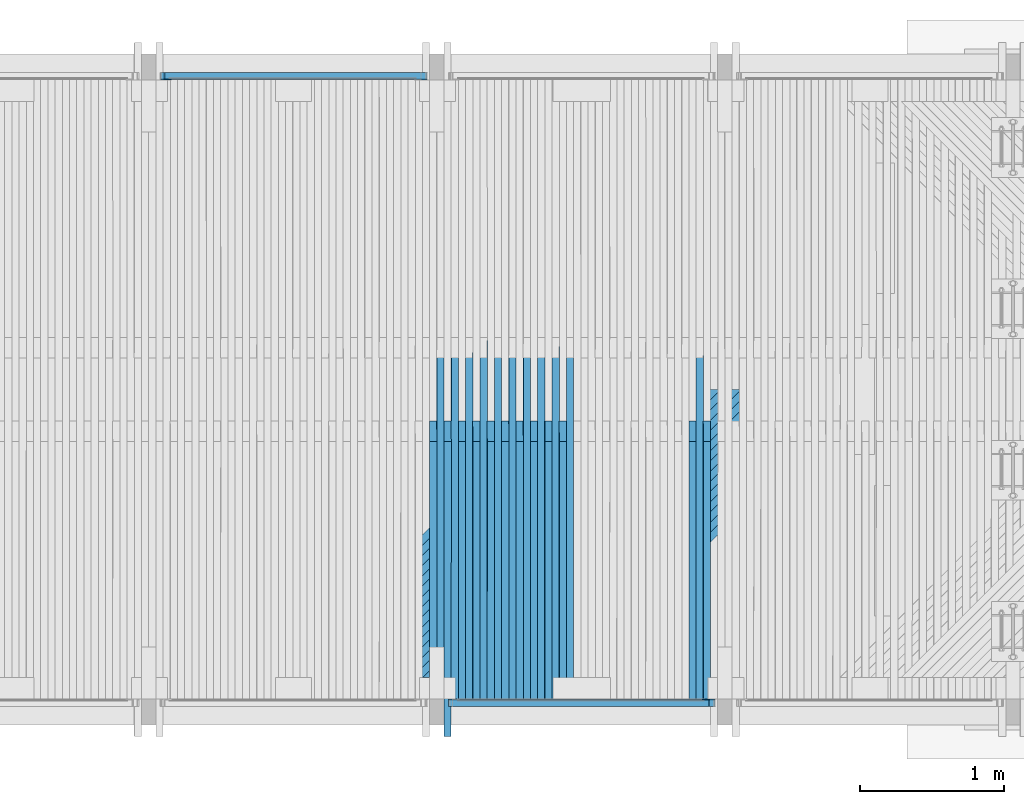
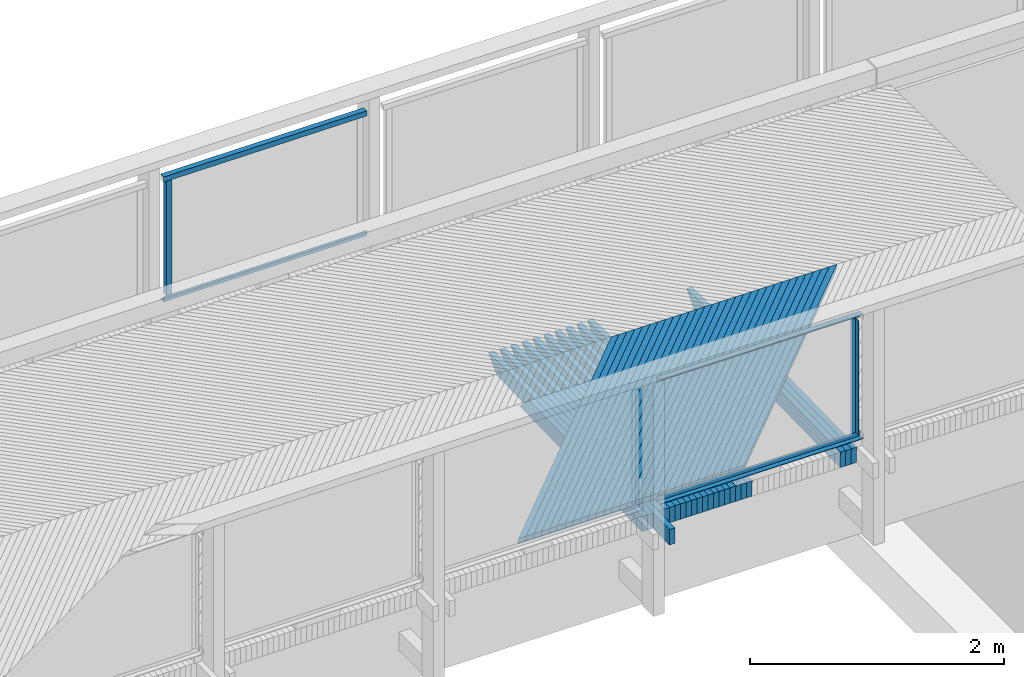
# One storey, part 40 of 65: 58 beams.
"""IFC2X3 building model written with IfcOpenShell, lengths in millimetres."""

from ifc_helpers import new_model, si_unit, frame, origin_with_axes, place, context, subcontext, project, spatial, faceted_brep, material, type_object, element, save


model = new_model("IFC2X3")

# Units and contexts
model_context = context("Model", 3, precision=1e-05, world=origin_with_axes())
body_context = subcontext(model_context, "Body", "Model", "MODEL_VIEW")
ifc_project = project(units=[si_unit("LENGTHUNIT", "METRE", prefix="MILLI"), si_unit("AREAUNIT", "SQUARE_METRE"), si_unit("VOLUMEUNIT", "CUBIC_METRE"), si_unit("MASSUNIT", "GRAM", prefix="KILO"), si_unit("TIMEUNIT", "SECOND"), si_unit("PLANEANGLEUNIT", "RADIAN"), si_unit("SOLIDANGLEUNIT", "STERADIAN"), si_unit("THERMODYNAMICTEMPERATUREUNIT", "DEGREE_CELSIUS"), si_unit("LUMINOUSINTENSITYUNIT", "LUMEN")], contexts=[model_context])

# Site, building, storey
site_placement = place(None, origin_with_axes())
site = spatial("IfcSite", under=ifc_project, at=site_placement, Name="Undefined", CompositionType="ELEMENT")
building_placement = place(site_placement, origin_with_axes())
building = spatial("IfcBuilding", under=site, at=building_placement, Name="Undefined", CompositionType="ELEMENT")
storey_placement = place(building_placement, origin_with_axes())
storey = spatial("IfcBuildingStorey", under=building, at=storey_placement, Name="Undefined", CompositionType="ELEMENT", Elevation=0.0)

# Beams
ifc_material_1 = material(Name="STEEL/S235JR")
beam_type_1 = type_object("IfcBeamType", Name="L50*5", PredefinedType="NOTDEFINED")
beam_1_placement = place(storey_placement, frame((10132.4988327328, 24539.9900000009, 4412.55853646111), z_axis=(0.0, 1.0, 0.0), x_axis=(0.0, 0.0, -1.0)))
element("IfcBeam", 1, at=beam_1_placement, inside=storey, type_object=beam_type_1, material=ifc_material_1, Name="BEAM", ObjectType="L50*5", context=body_context, shape_type="Brep", body=[
    faceted_brep([(0.0, 25.0, -25.0), (0.0, 25.0, 25.0), (1099.9997751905, 25.0, 25.0), (1099.9997751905, 25.0, -25.0), (0.0, 20.0, 25.0), (1099.9997751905, 20.0, 25.0), (0.0, 20.0, -20.0), (1099.9997751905, 20.0, -20.0), (0.0, -25.0, -20.0), (1099.9997751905, -25.0, -20.0), (0.0, -25.0, -25.0), (1099.9997751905, -25.0, -25.0)], [[[0, 1, 2, 3]], [[1, 4, 5, 2]], [[4, 6, 7, 5]], [[6, 8, 9, 7]], [[8, 10, 11, 9]], [[10, 0, 3, 11]], [[5, 7, 9, 11, 3, 2]], [[10, 8, 6, 4, 1, 0]]]),
])
for number, where, z_axis, x_axis, name in (
    (2, (10083.127585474, 24539.9900000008, 3287.67972949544), (0.0, 1.0, 0.0), (0.999987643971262, 0.0, -0.00497110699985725), "BEAM"),
    (3, (11931.8735567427, 24539.9899999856, 4428.48944779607), (0.0, 1.0, 0.0), (-0.999987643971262, 0.0, 0.00497110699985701), "BEAM"),
):
    element("IfcBeam", number, at=place(storey_placement, frame(where, z_axis=z_axis, x_axis=x_axis)), inside=storey, type_object=beam_type_1, material=ifc_material_1, Name=name, ObjectType="L50*5", context=body_context, shape_type="Brep", body=[
        faceted_brep([(0.0, 25.0, -25.0), (0.0, 25.0, 25.0), (1849.01737315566, 25.0, 25.0), (1849.01737315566, 25.0, -25.0), (0.0, 20.0, 25.0), (1849.01737315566, 20.0, 25.0), (0.0, 20.0, -20.0), (1849.01737315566, 20.0, -20.0), (0.0, -25.0, -20.0), (1849.01737315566, -25.0, -20.0), (0.0, -25.0, -25.0), (1849.01737315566, -25.0, -25.0)], [[[0, 1, 2, 3]], [[1, 4, 5, 2]], [[4, 6, 7, 5]], [[6, 8, 9, 7]], [[8, 10, 11, 9]], [[10, 0, 3, 11]], [[5, 7, 9, 11, 3, 2]], [[10, 8, 6, 4, 1, 0]]]),
    ])
beam_2_placement = place(storey_placement, frame((13867.5024948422, 20190.01, 4387.46397344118), z_axis=(0.0, -1.0, 0.0), x_axis=(0.0, 0.0, -1.0)))
element("IfcBeam", 4, at=beam_2_placement, inside=storey, type_object=beam_type_1, material=ifc_material_1, Name="BEAM", ObjectType="L50*5", context=body_context, shape_type="Brep", body=[
    faceted_brep([(0.0, 25.0, -25.0), (0.0, 25.0, 25.0), (1099.9980148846, 25.0, 25.0), (1099.9980148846, 25.0, -25.0), (0.0, 20.0, 25.0), (1099.9980148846, 20.0, 25.0), (0.0, 20.0, -20.0), (1099.9980148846, 20.0, -20.0), (0.0, -25.0, -20.0), (1099.9980148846, -25.0, -20.0), (0.0, -25.0, -25.0), (1099.9980148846, -25.0, -25.0)], [[[0, 1, 2, 3]], [[1, 4, 5, 2]], [[4, 6, 7, 5]], [[6, 8, 9, 7]], [[8, 10, 11, 9]], [[10, 0, 3, 11]], [[5, 7, 9, 11, 3, 2]], [[10, 8, 6, 4, 1, 0]]]),
])
for number, where, z_axis, x_axis, name in (
    (5, (13932.2054220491, 20190.0100000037, 3262.13638717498), (0.0, -1.0, 0.0), (-0.999965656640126, 0.0, 0.00828767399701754), "BEAM"),
    (6, (12082.7953903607, 20190.0100000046, 4427.46326622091), (0.0, -1.0, 0.0), (0.999965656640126, 0.0, -0.00828767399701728), "BEAM"),
):
    element("IfcBeam", number, at=place(storey_placement, frame(where, z_axis=z_axis, x_axis=x_axis)), inside=storey, type_object=beam_type_1, material=ifc_material_1, Name=name, ObjectType="L50*5", context=body_context, shape_type="Brep", body=[
        faceted_brep([(0.0, 25.0, -25.0), (0.0, 25.0, 25.0), (1849.05915089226, 25.0, 25.0), (1849.05915089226, 25.0, -25.0), (0.0, 20.0, 25.0), (1849.05915089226, 19.9999999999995, 25.0), (0.0, 20.0, -20.0), (1849.05915089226, 19.9999999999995, -20.0), (0.0, -25.0, -20.0), (1849.05915089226, -25.0, -20.0), (0.0, -25.0, -25.0), (1849.05915089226, -25.0, -25.0)], [[[0, 1, 2, 3]], [[1, 4, 5, 2]], [[4, 6, 7, 5]], [[6, 8, 9, 7]], [[8, 10, 11, 9]], [[10, 0, 3, 11]], [[5, 7, 9, 11, 3, 2]], [[10, 8, 6, 4, 1, 0]]]),
    ])
ifc_material_2 = material(Name="TIMBER/Timber_Undefined")
beam_type_2 = type_object("IfcBeamType", Name="50*50", PredefinedType="NOTDEFINED")
for number, where, z_axis, x_axis, name in (
    (7, (14925.1802800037, 22364.5001003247, 3196.29569063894), (0.706919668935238, -0.706981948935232, -0.0210025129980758), (-0.707227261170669, -0.706948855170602, -0.00727442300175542), "BEAM"),
    (8, (14854.4606769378, 22364.5001003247, 3197.1049734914), (0.706922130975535, -0.706981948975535, -0.0209194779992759), (-0.707226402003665, -0.706948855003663, -0.00735749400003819), "BEAM"),
    (9, (14783.740979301, 22364.5001003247, 3197.90594956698), (0.706924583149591, -0.706981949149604, -0.020836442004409), (-0.70722553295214, -0.706948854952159, -0.00744056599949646), "BEAM"),
    (10, (14713.0211880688, 22364.5001003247, 3198.69861885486), (0.706927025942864, -0.706981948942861, -0.0207534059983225), (-0.707224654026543, -0.706948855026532, -0.00752363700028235), "BEAM"),
    (11, (14642.301304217, 22364.5001003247, 3199.4829813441), (0.706929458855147, -0.706981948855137, -0.0206703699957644), (-0.70722376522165, -0.706948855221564, -0.00760670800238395), "BEAM"),
    (12, (14571.5813287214, 22364.5001003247, 3200.25903702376), (0.706931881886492, -0.706981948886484, -0.0205873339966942), (-0.707222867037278, -0.706948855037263, -0.00768977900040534), "BEAM"),
    (13, (14500.8612625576, 22364.5001003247, 3201.02678588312), (0.706934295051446, -0.706981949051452, -0.0205042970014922), (-0.707221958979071, -0.70694885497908, -0.00777284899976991), "BEAM"),
    (14, (14430.1411067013, 22364.5001003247, 3201.78622791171), (0.706936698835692, -0.706981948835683, -0.0204212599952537), (-0.707221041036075, -0.706948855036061, -0.00785592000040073), "BEAM"),
    (15, (14359.4208621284, 22364.5001003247, 3202.53736309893), (0.706939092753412, -0.706981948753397, -0.0203382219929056), (-0.707220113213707, -0.706948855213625, -0.00793899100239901), "BEAM"),
    (16, (14288.7005298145, 22364.5001003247, 3203.28019143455), (0.706941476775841, -0.706981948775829, -0.0202551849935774), (-0.707219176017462, -0.706948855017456, -0.00802206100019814), "BEAM"),
    (17, (14217.9801107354, 22364.5001003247, 3204.01471290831), (0.706943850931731, -0.706981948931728, -0.0201721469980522), (-0.707218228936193, -0.706948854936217, -0.00810513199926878), "BEAM"),
    (18, (14147.2596058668, 22364.5001003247, 3204.74092750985), (0.706946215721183, -0.706981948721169, -0.020089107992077), (-0.707217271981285, -0.706948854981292, -0.00818820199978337), "BEAM"),
    (19, (14076.5390161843, 22364.5001003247, 3205.45883522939), (0.706948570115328, -0.706981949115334, -0.0200060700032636), (-0.707216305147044, -0.706948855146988, -0.00827127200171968), "BEAM"),
    (20, (14005.8183426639, 22364.5001003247, 3206.16843605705), (0.706950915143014, -0.706981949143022, -0.0199230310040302), (-0.707215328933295, -0.70694885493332, -0.00835434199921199), "BEAM"),
    (21, (13935.0975862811, 22364.5001003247, 3206.86972998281), (0.706953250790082, -0.706981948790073, -0.019839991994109), (-0.707214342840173, -0.706948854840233, -0.00843741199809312), "BEAM"),
    (22, (13864.3767480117, 22364.5001003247, 3207.56271699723), (0.706955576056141, -0.706981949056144, -0.019756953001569), (-0.707213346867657, -0.706948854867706, -0.00852048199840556), "BEAM"),
    (23, (13793.6558288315, 22364.5001003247, 3208.24739709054), (0.706957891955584, -0.706981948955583, -0.019673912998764), (-0.70721234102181, -0.706948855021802, -0.00860355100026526), "BEAM"),
    (24, (13722.9348297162, 22364.5001003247, 3208.92377025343), (0.706960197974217, -0.706981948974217, -0.0195908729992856), (-0.7072113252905, -0.706948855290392, -0.00868662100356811), "BEAM"),
    (25, (13652.2137516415, 22364.5001003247, 3209.5918364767), (0.70696249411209, -0.706981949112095, -0.0195078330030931), (-0.707210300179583, -0.706948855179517, -0.0087696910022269), "BEAM"),
    (26, (13581.4925955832, 22364.5001003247, 3210.25159575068), (0.706964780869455, -0.706981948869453, -0.0194247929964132), (-0.707209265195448, -0.706948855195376, -0.00885276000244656), "BEAM"),
    (27, (13510.771362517, 22364.5001003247, 3210.90304806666), (0.706967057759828, -0.706981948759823, -0.019341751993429), (-0.707208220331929, -0.706948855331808, -0.00893582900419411), "BEAM"),
    (28, (13440.0500534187, 22364.5001003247, 3211.54619341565), (0.706969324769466, -0.706981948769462, -0.0192587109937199), (-0.707207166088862, -0.706948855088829, -0.00901889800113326), "BEAM"),
    (29, (13369.3286692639, 22364.5001003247, 3212.18103178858), (0.706971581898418, -0.706981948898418, -0.0191756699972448), (-0.707206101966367, -0.70694885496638, -0.00910196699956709), "BEAM"),
    (30, (13298.6072110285, 22364.5001003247, 3212.80756317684), (0.706973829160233, -0.706981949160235, -0.0190926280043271), (-0.707205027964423, -0.706948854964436, -0.00918503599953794), "BEAM"),
    (31, (13227.8856796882, 22364.5001003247, 3213.42578757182), (0.706976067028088, -0.70698194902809, -0.0190095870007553), (-0.707203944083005, -0.706948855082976, -0.00926810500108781), "BEAM"),
    (32, (13157.1640762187, 22364.5001003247, 3214.03570496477), (0.70697829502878, -0.70698194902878, -0.0189265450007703), (-0.707202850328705, -0.706948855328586, -0.00935117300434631), "BEAM"),
    (33, (13086.4424015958, 22364.5001003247, 3214.63731534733), (0.706980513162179, -0.70698194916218, -0.0188435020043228), (-0.707201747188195, -0.706948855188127, -0.00943424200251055), "BEAM"),
    (34, (13015.7206567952, 22364.5001003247, 3215.23061871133), (0.706982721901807, -0.706981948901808, -0.0187604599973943), (-0.707200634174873, -0.706948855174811, -0.00951731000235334), "BEAM"),
    (35, (12944.9988427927, 22364.5001003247, 3215.81561504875), (0.706984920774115, -0.706981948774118, -0.0186774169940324), (-0.707199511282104, -0.706948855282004, -0.00960037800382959), "BEAM"),
):
    element("IfcBeam", number, at=place(storey_placement, frame(where, z_axis=z_axis, x_axis=x_axis)), inside=storey, type_object=beam_type_2, material=ifc_material_2, Name=name, ObjectType="50*50", context=body_context, shape_type="Brep", body=[
        faceted_brep([(24.8942457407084, 25.0000000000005, -25.0000000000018), (-25.0086637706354, 24.9999999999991, 25.0), (2804.3406783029, 25.0, 25.0000000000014), (2854.34301907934, 24.9999999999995, -25.0), (-26.4222658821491, -25.0000000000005, 25.0), (2802.92643296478, -25.0, 25.0000000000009), (23.4806436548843, -24.9999999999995, -25.0000000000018), (2852.92877373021, -25.0000000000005, -24.9999999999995)], [[[0, 1, 2, 3]], [[1, 4, 5, 2]], [[4, 6, 7, 5]], [[6, 0, 3, 7]], [[5, 7, 3, 2]], [[6, 4, 1, 0]]]),
    ])
beam_type_3 = type_object("IfcBeamType", Name="150*50", PredefinedType="NOTDEFINED")
for number, where, z_axis, x_axis, name in (
    (36, (13875.0597412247, 20216.5046076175, 3064.47376901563), (0.00967943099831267, -0.0199960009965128, 0.999753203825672), (0.000193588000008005, 0.999800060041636, 0.0199950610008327), "BEAM"),
    (37, (13775.0443914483, 20216.5046076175, 3065.44163255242), (0.00951331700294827, -0.0199960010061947, 0.999754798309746), (0.000190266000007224, 0.999800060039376, 0.0199950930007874), "BEAM"),
):
    element("IfcBeam", number, at=place(storey_placement, frame(where, z_axis=z_axis, x_axis=x_axis)), inside=storey, type_object=beam_type_3, material=ifc_material_2, Name=name, ObjectType="150*50", context=body_context, shape_type="Brep", body=[
        faceted_brep([(-1.6778358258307e-07, -24.9999999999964, -74.9999999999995), (1.67790858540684e-07, -24.9999999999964, 75.0000000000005), (1.67790858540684e-07, 25.0000000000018, 74.9999999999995), (-1.6778358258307e-07, 25.0000000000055, -75.0), (1789.96936433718, -25.0000000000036, 74.9999999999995), (1789.96936408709, 24.9999999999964, 75.0), (1928.42646328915, 24.9999999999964, -75.0), (1928.42646353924, -25.0, -75.0000000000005)], [[[0, 1, 2, 3]], [[2, 1, 4, 5]], [[3, 2, 5, 6]], [[0, 3, 6, 7]], [[1, 0, 7, 4]], [[6, 5, 4, 7]]]),
    ])
beam_3_placement = place(storey_placement, frame((13825.062080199, 20216.5046076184, 3064.95737203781), z_axis=(0.00967943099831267, -0.0199960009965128, 0.999753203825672), x_axis=(0.000193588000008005, 0.999800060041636, 0.0199950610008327)))
element("IfcBeam", 38, at=beam_3_placement, inside=storey, type_object=beam_type_3, material=ifc_material_2, Name="BEAM", ObjectType="150*50", context=body_context, shape_type="Brep", body=[
    faceted_brep([(-1.6778358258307e-07, -24.9999999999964, -74.9999999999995), (1.67790858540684e-07, -24.9999999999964, 75.0000000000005), (1.67790858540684e-07, 25.0000000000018, 74.9999999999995), (-1.6778358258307e-07, 25.0000000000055, -75.0), (2375.00494422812, 25.0000000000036, -75.0), (2375.00494447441, -24.9999999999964, -74.9999999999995), (2510.59248714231, -24.9999999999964, 60.5875430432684), (2150.42514405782, -24.9999999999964, 75.0000000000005), (2150.42515052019, 25.0000000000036, 74.9999999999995), (2510.59248715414, 25.0000000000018, 60.5875433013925)], [[[0, 1, 2, 3]], [[0, 3, 4, 5]], [[1, 0, 5, 6, 7]], [[2, 1, 7, 8]], [[4, 3, 2, 8, 9]], [[5, 4, 9, 6]], [[6, 9, 8, 7]]]),
])
beam_4_placement = place(storey_placement, frame((12874.8994002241, 20216.5046076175, 3073.40458690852), z_axis=(0.00801827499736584, -0.0199960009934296, 0.999767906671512), x_axis=(0.0001603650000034, 0.999800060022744, 0.0199953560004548)))
element("IfcBeam", 39, at=beam_4_placement, inside=storey, type_object=beam_type_3, material=ifc_material_2, Name="BEAM", ObjectType="150*50", context=body_context, shape_type="Brep", body=[
    faceted_brep([(-1.6778358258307e-07, -24.9999999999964, -74.9999999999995), (1.67790858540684e-07, -24.9999999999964, 75.0000000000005), (1.67790858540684e-07, 25.0000000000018, 74.9999999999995), (-1.6778358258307e-07, 25.0000000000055, -75.0), (1789.96936433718, -25.0000000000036, 74.9999999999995), (1789.96936408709, 24.9999999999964, 75.0), (1928.42646328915, 24.9999999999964, -75.0), (1928.42646353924, -25.0, -75.0000000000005)], [[[0, 1, 2, 3]], [[2, 1, 4, 5]], [[3, 2, 5, 6]], [[0, 3, 6, 7]], [[1, 0, 7, 4]], [[6, 5, 4, 7]]]),
])
beam_5_placement = place(storey_placement, frame((12924.9177572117, 20216.5046076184, 3072.99512326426), z_axis=(0.00818439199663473, -0.0199960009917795, 0.999766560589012), x_axis=(0.000163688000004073, 0.999800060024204, 0.019995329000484)))
element("IfcBeam", 40, at=beam_5_placement, inside=storey, type_object=beam_type_3, material=ifc_material_2, Name="BEAM", ObjectType="150*50", context=body_context, shape_type="Brep", body=[
    faceted_brep([(-1.6778358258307e-07, -24.9999999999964, -74.9999999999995), (1.67790858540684e-07, -24.9999999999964, 75.0000000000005), (1.67790858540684e-07, 25.0000000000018, 74.9999999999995), (-1.6778358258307e-07, 25.0000000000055, -75.0), (2375.00494422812, 25.0000000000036, -75.0), (2375.00494447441, -24.9999999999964, -74.9999999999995), (2510.59248714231, -24.9999999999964, 60.5875430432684), (2150.42514405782, -24.9999999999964, 75.0000000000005), (2150.42515052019, 25.0000000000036, 74.9999999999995), (2510.59248715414, 25.0000000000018, 60.5875433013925)], [[[0, 1, 2, 3]], [[0, 3, 4, 5]], [[1, 0, 5, 6, 7]], [[2, 1, 7, 8]], [[4, 3, 2, 8, 9]], [[5, 4, 9, 6]], [[6, 9, 8, 7]]]),
])
beam_6_placement = place(storey_placement, frame((12774.8825803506, 20216.5046076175, 3074.20626833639), z_axis=(0.00785215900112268, -0.0199960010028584, 0.99976922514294), x_axis=(0.00015704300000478, 0.999800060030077, 0.0199953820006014)))
element("IfcBeam", 41, at=beam_6_placement, inside=storey, type_object=beam_type_3, material=ifc_material_2, Name="BEAM", ObjectType="150*50", context=body_context, shape_type="Brep", body=[
    faceted_brep([(-1.6778358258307e-07, -24.9999999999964, -74.9999999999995), (1.67790858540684e-07, -24.9999999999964, 75.0000000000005), (1.67790858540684e-07, 25.0000000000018, 74.9999999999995), (-1.6778358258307e-07, 25.0000000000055, -75.0), (1789.96936433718, -25.0000000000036, 74.9999999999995), (1789.96936408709, 24.9999999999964, 75.0), (1928.42646328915, 24.9999999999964, -75.0), (1928.42646353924, -25.0, -75.0000000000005)], [[[0, 1, 2, 3]], [[2, 1, 4, 5]], [[3, 2, 5, 6]], [[0, 3, 6, 7]], [[1, 0, 7, 4]], [[6, 5, 4, 7]]]),
])
beam_7_placement = place(storey_placement, frame((12824.9010046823, 20216.5046076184, 3073.80511551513), z_axis=(0.00801827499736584, -0.0199960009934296, 0.999767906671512), x_axis=(0.0001603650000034, 0.999800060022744, 0.0199953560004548)))
element("IfcBeam", 42, at=beam_7_placement, inside=storey, type_object=beam_type_3, material=ifc_material_2, Name="BEAM", ObjectType="150*50", context=body_context, shape_type="Brep", body=[
    faceted_brep([(-1.6778358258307e-07, -24.9999999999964, -74.9999999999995), (1.67790858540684e-07, -24.9999999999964, 75.0000000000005), (1.67790858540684e-07, 25.0000000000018, 74.9999999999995), (-1.6778358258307e-07, 25.0000000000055, -75.0), (2375.00494422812, 25.0000000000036, -75.0), (2375.00494447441, -24.9999999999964, -74.9999999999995), (2510.59248714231, -24.9999999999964, 60.5875430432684), (2150.42514405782, -24.9999999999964, 75.0000000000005), (2150.42515052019, 25.0000000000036, 74.9999999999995), (2510.59248715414, 25.0000000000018, 60.5875433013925)], [[[0, 1, 2, 3]], [[0, 3, 4, 5]], [[1, 0, 5, 6, 7]], [[2, 1, 7, 8]], [[4, 3, 2, 8, 9]], [[5, 4, 9, 6]], [[6, 9, 8, 7]]]),
])
beam_8_placement = place(storey_placement, frame((12674.8656286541, 20216.5046076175, 3074.99133142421), z_axis=(0.00768604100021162, -0.0199960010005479, 0.999770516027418), x_axis=(0.000153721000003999, 0.999800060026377, 0.0199954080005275)))
element("IfcBeam", 43, at=beam_8_placement, inside=storey, type_object=beam_type_3, material=ifc_material_2, Name="BEAM", ObjectType="150*50", context=body_context, shape_type="Brep", body=[
    faceted_brep([(-1.6778358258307e-07, -24.9999999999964, -74.9999999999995), (1.67790858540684e-07, -24.9999999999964, 75.0000000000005), (1.67790858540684e-07, 25.0000000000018, 74.9999999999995), (-1.6778358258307e-07, 25.0000000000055, -75.0), (1789.96936433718, -25.0000000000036, 74.9999999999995), (1789.96936408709, 24.9999999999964, 75.0), (1928.42646328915, 24.9999999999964, -75.0), (1928.42646353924, -25.0, -75.0000000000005)], [[[0, 1, 2, 3]], [[2, 1, 4, 5]], [[3, 2, 5, 6]], [[0, 3, 6, 7]], [[1, 0, 7, 4]], [[6, 5, 4, 7]]]),
])
beam_9_placement = place(storey_placement, frame((12724.884118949, 20216.5046076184, 3074.5984894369), z_axis=(0.00785215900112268, -0.0199960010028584, 0.99976922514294), x_axis=(0.00015704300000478, 0.999800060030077, 0.0199953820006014)))
element("IfcBeam", 44, at=beam_9_placement, inside=storey, type_object=beam_type_3, material=ifc_material_2, Name="BEAM", ObjectType="150*50", context=body_context, shape_type="Brep", body=[
    faceted_brep([(-1.6778358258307e-07, -24.9999999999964, -74.9999999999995), (1.67790858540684e-07, -24.9999999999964, 75.0000000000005), (1.67790858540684e-07, 25.0000000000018, 74.9999999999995), (-1.6778358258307e-07, 25.0000000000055, -75.0), (2375.00494422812, 25.0000000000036, -75.0), (2375.00494447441, -24.9999999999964, -74.9999999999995), (2510.59248714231, -24.9999999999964, 60.5875430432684), (2150.42514405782, -24.9999999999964, 75.0000000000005), (2150.42515052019, 25.0000000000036, 74.9999999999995), (2510.59248715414, 25.0000000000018, 60.5875433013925)], [[[0, 1, 2, 3]], [[0, 3, 4, 5]], [[1, 0, 5, 6, 7]], [[2, 1, 7, 8]], [[4, 3, 2, 8, 9]], [[5, 4, 9, 6]], [[6, 9, 8, 7]]]),
])
beam_10_placement = place(storey_placement, frame((12574.8485478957, 20216.5046076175, 3075.75977614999), z_axis=(0.00751992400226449, -0.0199960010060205, 0.99977177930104), x_axis=(0.000150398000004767, 0.999800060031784, 0.0199954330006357)))
element("IfcBeam", 45, at=beam_10_placement, inside=storey, type_object=beam_type_3, material=ifc_material_2, Name="BEAM", ObjectType="150*50", context=body_context, shape_type="Brep", body=[
    faceted_brep([(-1.6778358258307e-07, -24.9999999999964, -74.9999999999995), (1.67790858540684e-07, -24.9999999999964, 75.0000000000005), (1.67790858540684e-07, 25.0000000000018, 74.9999999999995), (-1.6778358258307e-07, 25.0000000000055, -75.0), (1789.96936433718, -25.0000000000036, 74.9999999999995), (1789.96936408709, 24.9999999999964, 75.0), (1928.42646328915, 24.9999999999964, -75.0), (1928.42646353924, -25.0, -75.0000000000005)], [[[0, 1, 2, 3]], [[2, 1, 4, 5]], [[3, 2, 5, 6]], [[0, 3, 6, 7]], [[1, 0, 7, 4]], [[6, 5, 4, 7]]]),
])
beam_11_placement = place(storey_placement, frame((12624.8671027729, 20216.5046076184, 3075.37524500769), z_axis=(0.00768604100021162, -0.0199960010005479, 0.999770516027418), x_axis=(0.000153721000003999, 0.999800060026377, 0.0199954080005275)))
element("IfcBeam", 46, at=beam_11_placement, inside=storey, type_object=beam_type_3, material=ifc_material_2, Name="BEAM", ObjectType="150*50", context=body_context, shape_type="Brep", body=[
    faceted_brep([(-1.6778358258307e-07, -24.9999999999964, -74.9999999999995), (1.67790858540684e-07, -24.9999999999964, 75.0000000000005), (1.67790858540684e-07, 25.0000000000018, 74.9999999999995), (-1.6778358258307e-07, 25.0000000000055, -75.0), (2375.00494422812, 25.0000000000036, -75.0), (2375.00494447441, -24.9999999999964, -74.9999999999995), (2510.59248714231, -24.9999999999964, 60.5875430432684), (2150.42514405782, -24.9999999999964, 75.0000000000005), (2150.42515052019, 25.0000000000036, 74.9999999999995), (2510.59248715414, 25.0000000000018, 60.5875433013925)], [[[0, 1, 2, 3]], [[0, 3, 4, 5]], [[1, 0, 5, 6, 7]], [[2, 1, 7, 8]], [[4, 3, 2, 8, 9]], [[5, 4, 9, 6]], [[6, 9, 8, 7]]]),
])
beam_12_placement = place(storey_placement, frame((12474.8313408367, 20216.5046076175, 3076.51160249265), z_axis=(0.00735380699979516, -0.0199960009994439, 0.999773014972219), x_axis=(0.000147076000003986, 0.999800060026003, 0.01999545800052)))
element("IfcBeam", 47, at=beam_12_placement, inside=storey, type_object=beam_type_3, material=ifc_material_2, Name="BEAM", ObjectType="150*50", context=body_context, shape_type="Brep", body=[
    faceted_brep([(-1.6778358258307e-07, -24.9999999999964, -74.9999999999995), (1.67790858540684e-07, -24.9999999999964, 75.0000000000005), (1.67790858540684e-07, 25.0000000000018, 74.9999999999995), (-1.6778358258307e-07, 25.0000000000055, -75.0), (1789.96936433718, -25.0000000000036, 74.9999999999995), (1789.96936408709, 24.9999999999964, 75.0), (1928.42646328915, 24.9999999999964, -75.0), (1928.42646353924, -25.0, -75.0000000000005)], [[[0, 1, 2, 3]], [[2, 1, 4, 5]], [[3, 2, 5, 6]], [[0, 3, 6, 7]], [[1, 0, 7, 4]], [[6, 5, 4, 7]]]),
])
beam_13_placement = place(storey_placement, frame((12524.8499589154, 20216.5046076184, 3076.13538220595), z_axis=(0.00751992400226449, -0.0199960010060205, 0.99977177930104), x_axis=(0.000150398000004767, 0.999800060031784, 0.0199954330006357)))
element("IfcBeam", 48, at=beam_13_placement, inside=storey, type_object=beam_type_3, material=ifc_material_2, Name="BEAM", ObjectType="150*50", context=body_context, shape_type="Brep", body=[
    faceted_brep([(-1.6778358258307e-07, -24.9999999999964, -74.9999999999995), (1.67790858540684e-07, -24.9999999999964, 75.0000000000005), (1.67790858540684e-07, 25.0000000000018, 74.9999999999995), (-1.6778358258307e-07, 25.0000000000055, -75.0), (2375.00494422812, 25.0000000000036, -75.0), (2375.00494447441, -24.9999999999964, -74.9999999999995), (2510.59248714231, -24.9999999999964, 60.5875430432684), (2150.42514405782, -24.9999999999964, 75.0000000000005), (2150.42515052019, 25.0000000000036, 74.9999999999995), (2510.59248715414, 25.0000000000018, 60.5875433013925)], [[[0, 1, 2, 3]], [[0, 3, 4, 5]], [[1, 0, 5, 6, 7]], [[2, 1, 7, 8]], [[4, 3, 2, 8, 9]], [[5, 4, 9, 6]], [[6, 9, 8, 7]]]),
])
beam_14_placement = place(storey_placement, frame((12374.8140102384, 20216.5046076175, 3077.24681043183), z_axis=(0.00718768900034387, -0.0199960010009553, 0.999774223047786), x_axis=(0.000143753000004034, 0.999800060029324, 0.0199954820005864)))
element("IfcBeam", 49, at=beam_14_placement, inside=storey, type_object=beam_type_3, material=ifc_material_2, Name="BEAM", ObjectType="150*50", context=body_context, shape_type="Brep", body=[
    faceted_brep([(-1.6778358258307e-07, -24.9999999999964, -74.9999999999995), (1.67790858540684e-07, -24.9999999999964, 75.0000000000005), (1.67790858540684e-07, 25.0000000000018, 74.9999999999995), (-1.6778358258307e-07, 25.0000000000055, -75.0), (1789.96936433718, -25.0000000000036, 74.9999999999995), (1789.96936408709, 24.9999999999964, 75.0), (1928.42646328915, 24.9999999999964, -75.0), (1928.42646353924, -25.0, -75.0000000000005)], [[[0, 1, 2, 3]], [[2, 1, 4, 5]], [[3, 2, 5, 6]], [[0, 3, 6, 7]], [[1, 0, 7, 4]], [[6, 5, 4, 7]]]),
])
beam_15_placement = place(storey_placement, frame((12424.8326901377, 20216.5046076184, 3076.87890101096), z_axis=(0.00735380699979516, -0.0199960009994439, 0.999773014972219), x_axis=(0.000147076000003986, 0.999800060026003, 0.01999545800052)))
element("IfcBeam", 50, at=beam_15_placement, inside=storey, type_object=beam_type_3, material=ifc_material_2, Name="BEAM", ObjectType="150*50", context=body_context, shape_type="Brep", body=[
    faceted_brep([(-1.6778358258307e-07, -24.9999999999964, -74.9999999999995), (1.67790858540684e-07, -24.9999999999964, 75.0000000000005), (1.67790858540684e-07, 25.0000000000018, 74.9999999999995), (-1.6778358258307e-07, 25.0000000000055, -75.0), (2375.00494422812, 25.0000000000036, -75.0), (2375.00494447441, -24.9999999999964, -74.9999999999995), (2510.59248714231, -24.9999999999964, 60.5875430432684), (2150.42514405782, -24.9999999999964, 75.0000000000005), (2150.42515052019, 25.0000000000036, 74.9999999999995), (2510.59248715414, 25.0000000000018, 60.5875433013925)], [[[0, 1, 2, 3]], [[0, 3, 4, 5]], [[1, 0, 5, 6, 7]], [[2, 1, 7, 8]], [[4, 3, 2, 8, 9]], [[5, 4, 9, 6]], [[6, 9, 8, 7]]]),
])
beam_16_placement = place(storey_placement, frame((12274.796558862, 20216.5046076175, 3077.96539994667), z_axis=(0.00702157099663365, -0.0199960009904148, 0.999775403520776), x_axis=(0.000140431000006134, 0.999800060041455, 0.019995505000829)))
element("IfcBeam", 51, at=beam_16_placement, inside=storey, type_object=beam_type_3, material=ifc_material_2, Name="BEAM", ObjectType="150*50", context=body_context, shape_type="Brep", body=[
    faceted_brep([(-1.6778358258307e-07, -24.9999999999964, -74.9999999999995), (1.67790858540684e-07, -24.9999999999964, 75.0000000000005), (1.67790858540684e-07, 25.0000000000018, 74.9999999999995), (-1.6778358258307e-07, 25.0000000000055, -75.0), (1789.96936433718, -25.0000000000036, 74.9999999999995), (1789.96936408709, 24.9999999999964, 75.0), (1928.42646328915, 24.9999999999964, -75.0), (1928.42646353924, -25.0, -75.0000000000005)], [[[0, 1, 2, 3]], [[2, 1, 4, 5]], [[3, 2, 5, 6]], [[0, 3, 6, 7]], [[1, 0, 7, 4]], [[6, 5, 4, 7]]]),
])
beam_17_placement = place(storey_placement, frame((12324.8152992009, 20216.5046076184, 3077.60580140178), z_axis=(0.00718768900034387, -0.0199960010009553, 0.999774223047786), x_axis=(0.000143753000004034, 0.999800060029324, 0.0199954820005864)))
element("IfcBeam", 52, at=beam_17_placement, inside=storey, type_object=beam_type_3, material=ifc_material_2, Name="BEAM", ObjectType="150*50", context=body_context, shape_type="Brep", body=[
    faceted_brep([(-1.6778358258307e-07, -24.9999999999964, -74.9999999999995), (1.67790858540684e-07, -24.9999999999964, 75.0000000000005), (1.67790858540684e-07, 25.0000000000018, 74.9999999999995), (-1.6778358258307e-07, 25.0000000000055, -75.0), (2375.00494422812, 25.0000000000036, -75.0), (2375.00494447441, -24.9999999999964, -74.9999999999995), (2510.59248714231, -24.9999999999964, 60.5875430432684), (2150.42514405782, -24.9999999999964, 75.0000000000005), (2150.42515052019, 25.0000000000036, 74.9999999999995), (2510.59248715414, 25.0000000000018, 60.5875433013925)], [[[0, 1, 2, 3]], [[0, 3, 4, 5]], [[1, 0, 5, 6, 7]], [[2, 1, 7, 8]], [[4, 3, 2, 8, 9]], [[5, 4, 9, 6]], [[6, 9, 8, 7]]]),
])
beam_18_placement = place(storey_placement, frame((12174.7789894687, 20216.5046076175, 3078.66737101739), z_axis=(0.00685545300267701, -0.0199960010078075, 0.999776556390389), x_axis=(0.000137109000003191, 0.99980006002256, 0.0199955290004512)))
element("IfcBeam", 53, at=beam_18_placement, inside=storey, type_object=beam_type_3, material=ifc_material_2, Name="BEAM", ObjectType="150*50", context=body_context, shape_type="Brep", body=[
    faceted_brep([(-1.6778358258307e-07, -24.9999999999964, -74.9999999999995), (1.67790858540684e-07, -24.9999999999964, 75.0000000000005), (1.67790858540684e-07, 25.0000000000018, 74.9999999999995), (-1.6778358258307e-07, 25.0000000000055, -75.0), (1789.96936433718, -25.0000000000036, 74.9999999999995), (1789.96936408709, 24.9999999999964, 75.0), (1928.42646328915, 24.9999999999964, -75.0), (1928.42646353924, -25.0, -75.0000000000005)], [[[0, 1, 2, 3]], [[2, 1, 4, 5]], [[3, 2, 5, 6]], [[0, 3, 6, 7]], [[1, 0, 7, 4]], [[6, 5, 4, 7]]]),
])
for number, where, z_axis, x_axis, name in (
    (54, (12224.7977888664, 20216.5046076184, 3078.3160833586), (0.00702157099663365, -0.0199960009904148, 0.999775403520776), (0.000140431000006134, 0.999800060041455, 0.019995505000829), "BEAM"),
    (55, (12124.7801618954, 20216.5046076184, 3079.00974686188), (0.00685545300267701, -0.0199960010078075, 0.999776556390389), (0.000137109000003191, 0.99980006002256, 0.0199955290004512), "BEAM"),
):
    element("IfcBeam", number, at=place(storey_placement, frame(where, z_axis=z_axis, x_axis=x_axis)), inside=storey, type_object=beam_type_3, material=ifc_material_2, Name=name, ObjectType="150*50", context=body_context, shape_type="Brep", body=[
        faceted_brep([(-1.6778358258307e-07, -24.9999999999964, -74.9999999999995), (1.67790858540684e-07, -24.9999999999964, 75.0000000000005), (1.67790858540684e-07, 25.0000000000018, 74.9999999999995), (-1.6778358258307e-07, 25.0000000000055, -75.0), (2375.00494422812, 25.0000000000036, -75.0), (2375.00494447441, -24.9999999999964, -74.9999999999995), (2510.59248714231, -24.9999999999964, 60.5875430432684), (2150.42514405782, -24.9999999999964, 75.0000000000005), (2150.42515052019, 25.0000000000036, 74.9999999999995), (2510.59248715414, 25.0000000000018, 60.5875433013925)], [[[0, 1, 2, 3]], [[0, 3, 4, 5]], [[1, 0, 5, 6, 7]], [[2, 1, 7, 8]], [[4, 3, 2, 8, 9]], [[5, 4, 9, 6]], [[6, 9, 8, 7]]]),
    ])
beam_19_placement = place(storey_placement, frame((11974.7435076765, 20216.5046076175, 3080.02145775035), z_axis=(0.00652321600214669, -0.0199960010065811, 0.999778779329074), x_axis=(0.000130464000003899, 0.999800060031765, 0.0199955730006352)))
element("IfcBeam", 56, at=beam_19_placement, inside=storey, type_object=beam_type_3, material=ifc_material_2, Name="BEAM", ObjectType="150*50", context=body_context, shape_type="Brep", body=[
    faceted_brep([(-1.6778358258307e-07, -24.9999999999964, -74.9999999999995), (1.67790858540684e-07, -24.9999999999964, 75.0000000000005), (1.67790858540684e-07, 25.0000000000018, 74.9999999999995), (-1.6778358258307e-07, 25.0000000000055, -75.0), (1789.96936433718, -25.0000000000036, 74.9999999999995), (1789.96936408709, 24.9999999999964, 75.0), (1928.42646328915, 24.9999999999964, -75.0), (1928.42646353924, -25.0, -75.0000000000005)], [[[0, 1, 2, 3]], [[2, 1, 4, 5]], [[3, 2, 5, 6]], [[0, 3, 6, 7]], [[1, 0, 7, 4]], [[6, 5, 4, 7]]]),
])
beam_20_placement = place(storey_placement, frame((12024.762421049, 20216.5046076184, 3079.68679189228), z_axis=(0.00668933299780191, -0.0199960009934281, 0.999777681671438), x_axis=(0.000133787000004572, 0.999800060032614, 0.0199955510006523)))
element("IfcBeam", 57, at=beam_20_placement, inside=storey, type_object=beam_type_3, material=ifc_material_2, Name="BEAM", ObjectType="150*50", context=body_context, shape_type="Brep", body=[
    faceted_brep([(-1.6778358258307e-07, -24.9999999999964, -74.9999999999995), (1.67790858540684e-07, -24.9999999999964, 75.0000000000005), (1.67790858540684e-07, 25.0000000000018, 74.9999999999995), (-1.6778358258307e-07, 25.0000000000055, -75.0), (2375.00494422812, 25.0000000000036, -75.0), (2375.00494447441, -24.9999999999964, -74.9999999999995), (2510.59248714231, -24.9999999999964, 60.5875430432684), (2150.42514405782, -24.9999999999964, 75.0000000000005), (2150.42515052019, 25.0000000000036, 74.9999999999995), (2510.59248715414, 25.0000000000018, 60.5875433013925)], [[[0, 1, 2, 3]], [[0, 3, 4, 5]], [[1, 0, 5, 6, 7]], [[2, 1, 7, 8]], [[4, 3, 2, 8, 9]], [[5, 4, 9, 6]], [[6, 9, 8, 7]]]),
])
beam_21_placement = place(storey_placement, frame((12074.8972682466, 19958.5561921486, 3074.19368174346), z_axis=(0.00668828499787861, -0.0199960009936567, 0.999777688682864), x_axis=(0.000133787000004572, 0.999800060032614, 0.0199955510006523)))
element("IfcBeam", 58, at=beam_21_placement, inside=storey, type_object=beam_type_3, material=ifc_material_2, Name="BEAM", ObjectType="150*50", context=body_context, shape_type="Brep", body=[
    faceted_brep([(-1.6778358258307e-07, -24.9999999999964, -74.9999999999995), (1.67790858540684e-07, -24.9999999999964, 75.0000000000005), (1.67790858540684e-07, 25.0000000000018, 74.9999999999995), (-1.6778358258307e-07, 25.0000000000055, -75.0), (2047.96935255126, -25.0000000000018, 75.0000000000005), (2047.9693678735, 24.9999999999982, 75.0), (2186.42646676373, 24.9999999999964, -74.9999999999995), (2186.42645144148, -25.0000000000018, -75.0)], [[[0, 1, 2, 3]], [[2, 1, 4, 5]], [[3, 2, 5, 6]], [[0, 3, 6, 7]], [[1, 0, 7, 4]], [[6, 5, 4, 7]]]),
])

save(model, "model.ifc")
